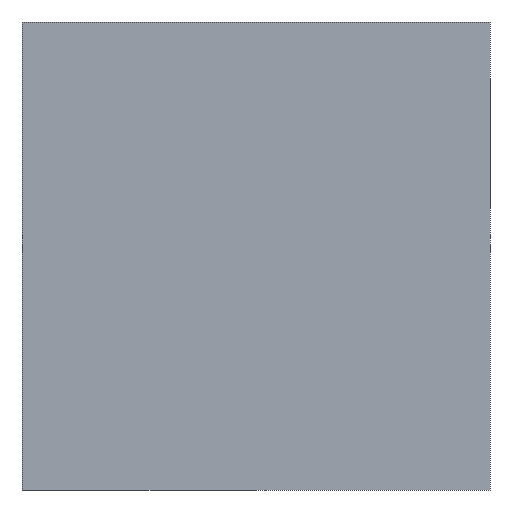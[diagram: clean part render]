
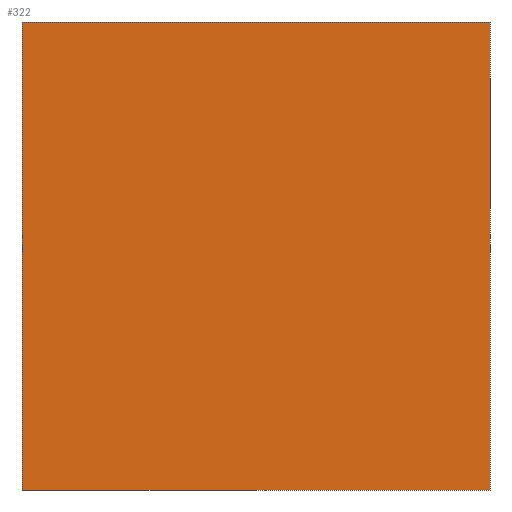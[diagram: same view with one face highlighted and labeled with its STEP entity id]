
A CAD part, left-side view. The second image highlights one B-rep face of the part: STEP entity #322.
In plain terms, the highlighted planar face has unit normal (-1, 0, 0).
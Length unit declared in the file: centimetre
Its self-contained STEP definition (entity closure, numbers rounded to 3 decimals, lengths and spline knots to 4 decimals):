
#26 = CARTESIAN_POINT ( 'NONE',  ( 0., 1000., 1000. ) ) ;
#30 = DIRECTION ( 'NONE',  ( 0., -1., 0. ) ) ;
#50 = CARTESIAN_POINT ( 'NONE',  ( 0., 0., 1000. ) ) ;
#56 = DIRECTION ( 'NONE',  ( 0., 0., -1. ) ) ;
#84 = ORIENTED_EDGE ( 'NONE', *, *, #417, .F. ) ;
#99 = CARTESIAN_POINT ( 'NONE',  ( 0., 1000., 1000. ) ) ;
#108 = VECTOR ( 'NONE', #30, 100. ) ;
#155 = ORIENTED_EDGE ( 'NONE', *, *, #359, .F. ) ;
#165 = VECTOR ( 'NONE', #243, 100. ) ;
#174 = ORIENTED_EDGE ( 'NONE', *, *, #311, .T. ) ;
#183 = VECTOR ( 'NONE', #217, 100. ) ;
#188 = CARTESIAN_POINT ( 'NONE',  ( 0., 1000., 1000. ) ) ;
#191 = LINE ( 'NONE', #188, #165 ) ;
#193 = VERTEX_POINT ( 'NONE', #371 ) ;
#204 = ORIENTED_EDGE ( 'NONE', *, *, #432, .T. ) ;
#205 = VERTEX_POINT ( 'NONE', #50 ) ;
#217 = DIRECTION ( 'NONE',  ( 0., -1., 0. ) ) ;
#239 = CARTESIAN_POINT ( 'NONE',  ( 0., 1000., 1000. ) ) ;
#243 = DIRECTION ( 'NONE',  ( 0., 0., -1. ) ) ;
#247 = LINE ( 'NONE', #424, #480 ) ;
#250 = FACE_OUTER_BOUND ( 'NONE', #389, .T. ) ;
#284 = VERTEX_POINT ( 'NONE', #99 ) ;
#287 = DIRECTION ( 'NONE',  ( 1., 0., 0. ) ) ;
#311 = EDGE_CURVE ( 'NONE', #284, #421, #191, .T. ) ;
#322 = ADVANCED_FACE ( 'NONE', ( #250 ), #419, .F. ) ;
#352 = CARTESIAN_POINT ( 'NONE',  ( 0., 1000., 0. ) ) ;
#359 = EDGE_CURVE ( 'NONE', #205, #193, #247, .T. ) ;
#371 = CARTESIAN_POINT ( 'NONE',  ( 0., 0., 0. ) ) ;
#387 = AXIS2_PLACEMENT_3D ( 'NONE', #239, #287, #56 ) ;
#389 = EDGE_LOOP ( 'NONE', ( #204, #155, #84, #174 ) ) ;
#417 = EDGE_CURVE ( 'NONE', #284, #205, #438, .T. ) ;
#419 = PLANE ( 'NONE',  #387 ) ;
#421 = VERTEX_POINT ( 'NONE', #352 ) ;
#424 = CARTESIAN_POINT ( 'NONE',  ( 0., 0., 1000. ) ) ;
#432 = EDGE_CURVE ( 'NONE', #421, #193, #481, .T. ) ;
#438 = LINE ( 'NONE', #26, #108 ) ;
#480 = VECTOR ( 'NONE', #563, 100. ) ;
#481 = LINE ( 'NONE', #483, #183 ) ;
#483 = CARTESIAN_POINT ( 'NONE',  ( 0., 1000., 0. ) ) ;
#563 = DIRECTION ( 'NONE',  ( 0., 0., -1. ) ) ;
